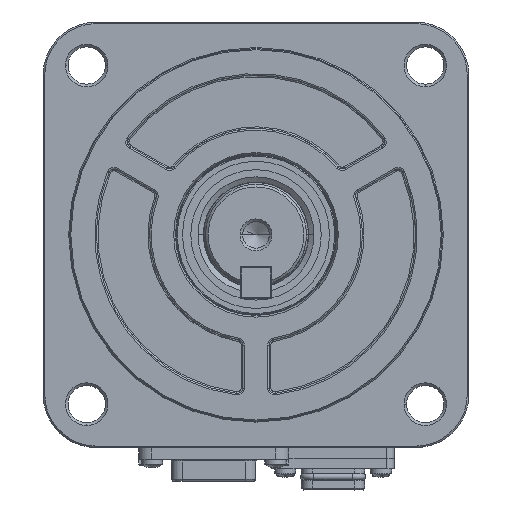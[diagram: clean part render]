
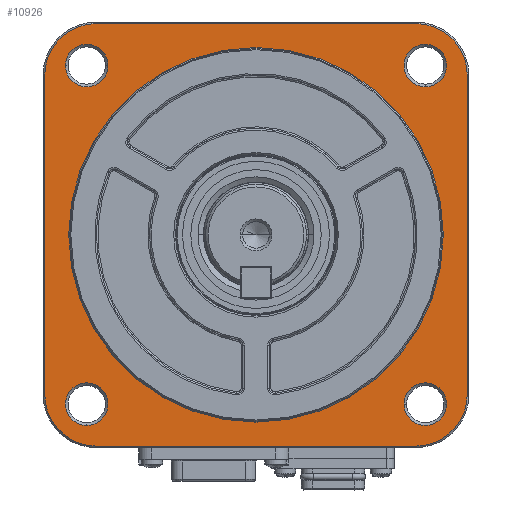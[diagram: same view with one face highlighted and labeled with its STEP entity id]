
A CAD part, left-side view. The second image highlights one B-rep face of the part: STEP entity #10926.
In plain terms, the highlighted planar face has unit normal (-1, 0, 0).
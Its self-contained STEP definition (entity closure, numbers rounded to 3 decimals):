
#1478=CARTESIAN_POINT('',(-1.5,30.,-30.));
#1479=DIRECTION('',(1.,0.,0.));
#1480=DIRECTION('',(0.,0.,-1.));
#1481=AXIS2_PLACEMENT_3D('',#1478,#1479,#1480);
#1483=DIRECTION('',(0.,0.,1.));
#1484=VECTOR('',#1483,60.);
#1485=CARTESIAN_POINT('',(-1.5,39.7,
-30.));
#1486=LINE('',#1485,#1484);
#1487=CARTESIAN_POINT('',(-1.5,30.,30.));
#1488=DIRECTION('',(1.,0.,0.));
#1489=DIRECTION('',(0.,1.,0.));
#1490=AXIS2_PLACEMENT_3D('',#1487,#1488,#1489);
#1492=DIRECTION('',(0.,-1.,0.));
#1493=VECTOR('',#1492,60.);
#1494=CARTESIAN_POINT('',(-1.5,30.,39.7));
#1495=LINE('',#1494,#1493);
#1496=CARTESIAN_POINT('',(-1.5,-30.,30.));
#1497=DIRECTION('',(1.,0.,0.));
#1498=DIRECTION('',(0.,0.,1.));
#1499=AXIS2_PLACEMENT_3D('',#1496,#1497,#1498);
#1501=DIRECTION('',(0.,0.,-1.));
#1502=VECTOR('',#1501,60.);
#1503=CARTESIAN_POINT('',(-1.5,-39.7,
30.));
#1504=LINE('',#1503,#1502);
#1505=CARTESIAN_POINT('',(-1.5,-30.,-30.));
#1506=DIRECTION('',(1.,0.,0.));
#1507=DIRECTION('',(0.,-1.,0.));
#1508=AXIS2_PLACEMENT_3D('',#1505,#1506,#1507);
#1510=DIRECTION('',(0.,1.,0.));
#1511=VECTOR('',#1510,60.);
#1512=CARTESIAN_POINT('',(-1.5,-30.,
-39.7));
#1513=LINE('',#1512,#1511);
#1514=CARTESIAN_POINT('',(-1.5,31.82,-31.82));
#1515=DIRECTION('',(-1.,0.,0.));
#1516=DIRECTION('',(0.,0.,1.));
#1517=AXIS2_PLACEMENT_3D('',#1514,#1515,#1516);
#1519=CARTESIAN_POINT('',(-1.5,31.82,-31.82));
#1520=DIRECTION('',(-1.,0.,0.));
#1521=DIRECTION('',(0.,0.,-1.));
#1522=AXIS2_PLACEMENT_3D('',#1519,#1520,#1521);
#1524=CARTESIAN_POINT('',(-1.5,-31.82,31.82));
#1525=DIRECTION('',(-1.,0.,0.));
#1526=DIRECTION('',(0.,0.,1.));
#1527=AXIS2_PLACEMENT_3D('',#1524,#1525,#1526);
#1529=CARTESIAN_POINT('',(-1.5,-31.82,31.82));
#1530=DIRECTION('',(-1.,0.,0.));
#1531=DIRECTION('',(0.,0.,-1.));
#1532=AXIS2_PLACEMENT_3D('',#1529,#1530,#1531);
#1534=CARTESIAN_POINT('',(-1.5,-31.82,-31.82));
#1535=DIRECTION('',(-1.,0.,0.));
#1536=DIRECTION('',(0.,1.,0.));
#1537=AXIS2_PLACEMENT_3D('',#1534,#1535,#1536);
#1539=CARTESIAN_POINT('',(-1.5,-31.82,-31.82));
#1540=DIRECTION('',(-1.,0.,0.));
#1541=DIRECTION('',(0.,0.,-1.));
#1542=AXIS2_PLACEMENT_3D('',#1539,#1540,#1541);
#1544=CARTESIAN_POINT('',(-1.5,-31.82,-31.82));
#1545=DIRECTION('',(-1.,0.,0.));
#1546=DIRECTION('',(0.,-1.,0.));
#1547=AXIS2_PLACEMENT_3D('',#1544,#1545,#1546);
#1549=CARTESIAN_POINT('',(-1.5,-31.82,-31.82));
#1550=DIRECTION('',(-1.,0.,0.));
#1551=DIRECTION('',(0.,0.,1.));
#1552=AXIS2_PLACEMENT_3D('',#1549,#1550,#1551);
#1554=CARTESIAN_POINT('',(-1.5,0.,0.));
#1555=DIRECTION('',(-1.,0.,0.));
#1556=DIRECTION('',(0.,1.,0.));
#1557=AXIS2_PLACEMENT_3D('',#1554,#1555,#1556);
#1559=CARTESIAN_POINT('',(-1.5,0.,0.));
#1560=DIRECTION('',(-1.,0.,0.));
#1561=DIRECTION('',(0.,0.,-1.));
#1562=AXIS2_PLACEMENT_3D('',#1559,#1560,#1561);
#1564=CARTESIAN_POINT('',(-1.5,0.,0.));
#1565=DIRECTION('',(-1.,0.,0.));
#1566=DIRECTION('',(0.,-1.,0.));
#1567=AXIS2_PLACEMENT_3D('',#1564,#1565,#1566);
#1569=CARTESIAN_POINT('',(-1.5,0.,0.));
#1570=DIRECTION('',(-1.,0.,0.));
#1571=DIRECTION('',(0.,0.,1.));
#1572=AXIS2_PLACEMENT_3D('',#1569,#1570,#1571);
#1574=CARTESIAN_POINT('',(-1.5,31.82,31.82));
#1575=DIRECTION('',(-1.,0.,0.));
#1576=DIRECTION('',(0.,1.,0.));
#1577=AXIS2_PLACEMENT_3D('',#1574,#1575,#1576);
#1579=CARTESIAN_POINT('',(-1.5,31.82,31.82));
#1580=DIRECTION('',(-1.,0.,0.));
#1581=DIRECTION('',(0.,0.,-1.));
#1582=AXIS2_PLACEMENT_3D('',#1579,#1580,#1581);
#1584=CARTESIAN_POINT('',(-1.5,31.82,31.82));
#1585=DIRECTION('',(-1.,0.,0.));
#1586=DIRECTION('',(0.,-1.,0.));
#1587=AXIS2_PLACEMENT_3D('',#1584,#1585,#1586);
#1589=CARTESIAN_POINT('',(-1.5,31.82,31.82));
#1590=DIRECTION('',(-1.,0.,0.));
#1591=DIRECTION('',(0.,0.,1.));
#1592=AXIS2_PLACEMENT_3D('',#1589,#1590,#1591);
#5177=CARTESIAN_POINT('',(-1.5,30.,39.7));
#5178=CARTESIAN_POINT('',(-1.5,-30.,
39.7));
#5179=VERTEX_POINT('',#5177);
#5180=VERTEX_POINT('',#5178);
#5181=CARTESIAN_POINT('',(-1.5,30.,-39.7));
#5182=CARTESIAN_POINT('',(-1.5,39.7,-30.));
#5183=VERTEX_POINT('',#5181);
#5184=VERTEX_POINT('',#5182);
#5185=CARTESIAN_POINT('',(-1.5,39.7,30.));
#5186=VERTEX_POINT('',#5185);
#5187=CARTESIAN_POINT('',(-1.5,-39.7,30.));
#5188=VERTEX_POINT('',#5187);
#5189=CARTESIAN_POINT('',(-1.5,-39.7,
-30.));
#5190=VERTEX_POINT('',#5189);
#5191=CARTESIAN_POINT('',(-1.5,-30.,-39.7));
#5192=VERTEX_POINT('',#5191);
#5193=CARTESIAN_POINT('',(-1.5,31.82,-27.82));
#5194=CARTESIAN_POINT('',(-1.5,31.82,-35.82));
#5195=VERTEX_POINT('',#5193);
#5196=VERTEX_POINT('',#5194);
#5197=CARTESIAN_POINT('',(-1.5,-31.82,35.82));
#5198=CARTESIAN_POINT('',(-1.5,-31.82,27.82));
#5199=VERTEX_POINT('',#5197);
#5200=VERTEX_POINT('',#5198);
#5201=CARTESIAN_POINT('',(-1.5,-31.82,-35.82));
#5202=CARTESIAN_POINT('',(-1.5,-35.82,-31.82));
#5203=VERTEX_POINT('',#5201);
#5204=VERTEX_POINT('',#5202);
#5205=CARTESIAN_POINT('',(-1.5,-27.82,-31.82));
#5206=VERTEX_POINT('',#5205);
#5207=CARTESIAN_POINT('',(-1.5,-31.82,-27.82));
#5208=VERTEX_POINT('',#5207);
#5209=CARTESIAN_POINT('',(-1.5,0.,-35.2));
#5210=CARTESIAN_POINT('',(-1.5,-35.2,0.));
#5211=VERTEX_POINT('',#5209);
#5212=VERTEX_POINT('',#5210);
#5213=CARTESIAN_POINT('',(-1.5,35.2,0.));
#5214=VERTEX_POINT('',#5213);
#5215=CARTESIAN_POINT('',(-1.5,0.,35.2));
#5216=VERTEX_POINT('',#5215);
#5217=CARTESIAN_POINT('',(-1.5,31.82,27.82));
#5218=CARTESIAN_POINT('',(-1.5,27.82,31.82));
#5219=VERTEX_POINT('',#5217);
#5220=VERTEX_POINT('',#5218);
#5221=CARTESIAN_POINT('',(-1.5,35.82,31.82));
#5222=VERTEX_POINT('',#5221);
#5223=CARTESIAN_POINT('',(-1.5,31.82,35.82));
#5224=VERTEX_POINT('',#5223);
#10862=CARTESIAN_POINT('',(-1.5,0.,0.));
#10863=DIRECTION('',(1.,0.,0.));
#10864=DIRECTION('',(0.,-1.,0.));
#10865=AXIS2_PLACEMENT_3D('',#10862,#10863,#10864);
#10866=PLANE('',#10865);
#10868=ORIENTED_EDGE('',*,*,#10867,.T.);
#10870=ORIENTED_EDGE('',*,*,#10869,.T.);
#10872=ORIENTED_EDGE('',*,*,#10871,.T.);
#10874=ORIENTED_EDGE('',*,*,#10873,.T.);
#10876=ORIENTED_EDGE('',*,*,#10875,.T.);
#10878=ORIENTED_EDGE('',*,*,#10877,.T.);
#10880=ORIENTED_EDGE('',*,*,#10879,.T.);
#10881=ORIENTED_EDGE('',*,*,#10852,.T.);
#10882=EDGE_LOOP('',(#10868,#10870,#10872,#10874,#10876,#10878,#10880,#10881));
#10883=FACE_OUTER_BOUND('',#10882,.F.);
#10885=ORIENTED_EDGE('',*,*,#10884,.T.);
#10887=ORIENTED_EDGE('',*,*,#10886,.T.);
#10888=EDGE_LOOP('',(#10885,#10887));
#10889=FACE_BOUND('',#10888,.F.);
#10891=ORIENTED_EDGE('',*,*,#10890,.T.);
#10893=ORIENTED_EDGE('',*,*,#10892,.T.);
#10894=EDGE_LOOP('',(#10891,#10893));
#10895=FACE_BOUND('',#10894,.F.);
#10897=ORIENTED_EDGE('',*,*,#10896,.T.);
#10899=ORIENTED_EDGE('',*,*,#10898,.T.);
#10901=ORIENTED_EDGE('',*,*,#10900,.T.);
#10903=ORIENTED_EDGE('',*,*,#10902,.T.);
#10904=EDGE_LOOP('',(#10897,#10899,#10901,#10903));
#10905=FACE_BOUND('',#10904,.F.);
#10907=ORIENTED_EDGE('',*,*,#10906,.T.);
#10909=ORIENTED_EDGE('',*,*,#10908,.T.);
#10911=ORIENTED_EDGE('',*,*,#10910,.T.);
#10913=ORIENTED_EDGE('',*,*,#10912,.T.);
#10914=EDGE_LOOP('',(#10907,#10909,#10911,#10913));
#10915=FACE_BOUND('',#10914,.F.);
#10917=ORIENTED_EDGE('',*,*,#10916,.T.);
#10919=ORIENTED_EDGE('',*,*,#10918,.T.);
#10921=ORIENTED_EDGE('',*,*,#10920,.T.);
#10923=ORIENTED_EDGE('',*,*,#10922,.T.);
#10924=EDGE_LOOP('',(#10917,#10919,#10921,#10923));
#10925=FACE_BOUND('',#10924,.F.);
#10926=ADVANCED_FACE('',(#10883,#10889,#10895,#10905,#10915,#10925),#10866,.F.);
#1482=CIRCLE('',#1481,9.7);
#1491=CIRCLE('',#1490,9.7);
#1500=CIRCLE('',#1499,9.7);
#1509=CIRCLE('',#1508,9.7);
#1518=CIRCLE('',#1517,4.);
#1523=CIRCLE('',#1522,4.);
#1528=CIRCLE('',#1527,4.);
#1533=CIRCLE('',#1532,4.);
#1538=CIRCLE('',#1537,4.);
#1543=CIRCLE('',#1542,4.);
#1548=CIRCLE('',#1547,4.);
#1553=CIRCLE('',#1552,4.);
#1558=CIRCLE('',#1557,35.2);
#1563=CIRCLE('',#1562,35.2);
#1568=CIRCLE('',#1567,35.2);
#1573=CIRCLE('',#1572,35.2);
#1578=CIRCLE('',#1577,4.);
#1583=CIRCLE('',#1582,4.);
#1588=CIRCLE('',#1587,4.);
#1593=CIRCLE('',#1592,4.);
#10852=EDGE_CURVE('',#5192,#5183,#1513,.T.);
#10867=EDGE_CURVE('',#5183,#5184,#1482,.T.);
#10869=EDGE_CURVE('',#5184,#5186,#1486,.T.);
#10871=EDGE_CURVE('',#5186,#5179,#1491,.T.);
#10873=EDGE_CURVE('',#5179,#5180,#1495,.T.);
#10875=EDGE_CURVE('',#5180,#5188,#1500,.T.);
#10877=EDGE_CURVE('',#5188,#5190,#1504,.T.);
#10879=EDGE_CURVE('',#5190,#5192,#1509,.T.);
#10884=EDGE_CURVE('',#5195,#5196,#1518,.T.);
#10886=EDGE_CURVE('',#5196,#5195,#1523,.T.);
#10890=EDGE_CURVE('',#5199,#5200,#1528,.T.);
#10892=EDGE_CURVE('',#5200,#5199,#1533,.T.);
#10896=EDGE_CURVE('',#5206,#5203,#1538,.T.);
#10898=EDGE_CURVE('',#5203,#5204,#1543,.T.);
#10900=EDGE_CURVE('',#5204,#5208,#1548,.T.);
#10902=EDGE_CURVE('',#5208,#5206,#1553,.T.);
#10906=EDGE_CURVE('',#5214,#5211,#1558,.T.);
#10908=EDGE_CURVE('',#5211,#5212,#1563,.T.);
#10910=EDGE_CURVE('',#5212,#5216,#1568,.T.);
#10912=EDGE_CURVE('',#5216,#5214,#1573,.T.);
#10916=EDGE_CURVE('',#5222,#5219,#1578,.T.);
#10918=EDGE_CURVE('',#5219,#5220,#1583,.T.);
#10920=EDGE_CURVE('',#5220,#5224,#1588,.T.);
#10922=EDGE_CURVE('',#5224,#5222,#1593,.T.);
